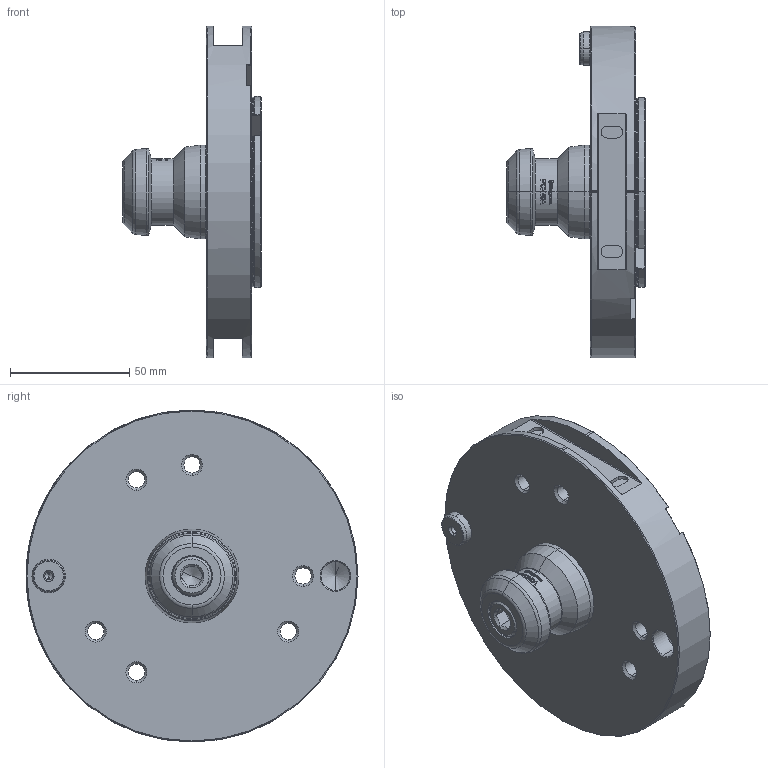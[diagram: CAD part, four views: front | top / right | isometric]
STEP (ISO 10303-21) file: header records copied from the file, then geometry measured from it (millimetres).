
FILE_DESCRIPTION (( 'STEP AP203' ), '1' );
FILE_NAME ('61P296266.STEP', '2024-04-26T06:51:33', ( '' ), ( '' ), 'SwSTEP 2.0', 'SolidWorks 2022', '' );
FILE_SCHEMA (( 'CONFIG_CONTROL_DESIGN' ));
Length unit declared in the file: millimetre
Products named in the file (5): 0030110045; 61P864228; 61P293306; 61P493325; 61P296266
Assembly tree (4 placements, depth 2):
  61P296266
    61P864228
    61P293306
    61P493325
    0030110045
Bounding box: 58 x 139 x 139 mm (x, y, z)
Volume: 319038.9 mm3; surface area: 56098.4 mm2
Topology: 4 solids, 4 shells, 464 faces, 1842 edges, 1425 vertices
Faces by surface type: plane 157, cone 102, cylinder 96, bspline 90, torus 19
Entity records: 23951 total; most frequent: CARTESIAN_POINT 9903, ORIENTED_EDGE 3668, DIRECTION 2043, EDGE_CURVE 1834, VERTEX_POINT 1425, AXIS2_PLACEMENT_3D 729, VECTOR 585, LINE 585
